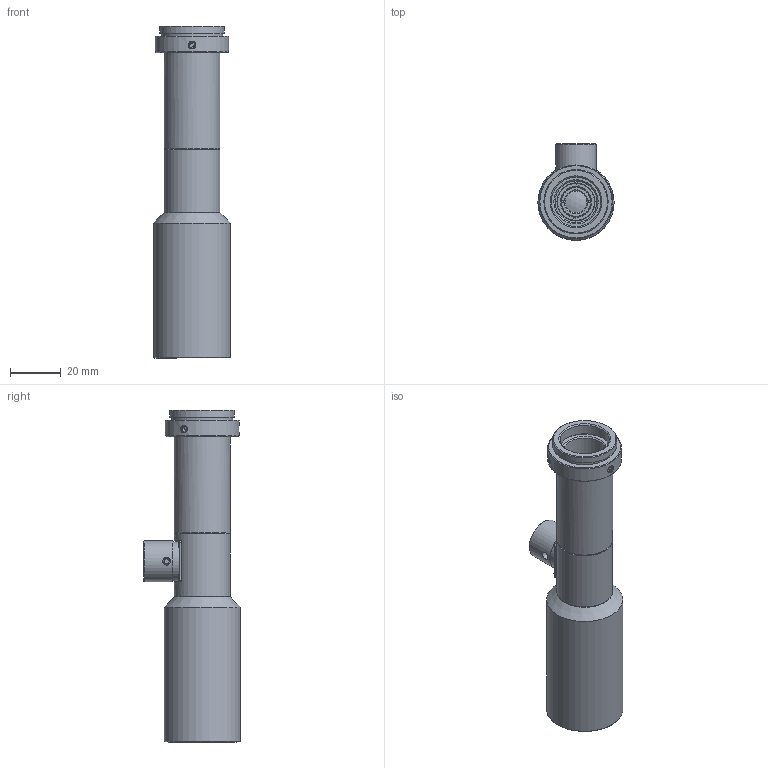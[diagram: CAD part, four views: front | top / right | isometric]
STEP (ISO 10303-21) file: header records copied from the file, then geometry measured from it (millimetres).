
FILE_DESCRIPTION(('STEP AP214'),'1');
FILE_NAME('RTK-08F-M65.stp','2026-07-31T06:01:05',(' '),(' '),'Spatial InterOp 3D',' ',' ');
FILE_SCHEMA(('AUTOMOTIVE_DESIGN { 1 0 10303 214 1 1 1 1 }'));
Length unit declared in the file: metre
Products named in the file (2): RTK-08F-M65; Component1
Assembly tree (1 placements, depth 2):
  RTK-08F-M65
    Component1
Bounding box: 30 x 38 x 130.62 mm (x, y, z)
Volume: 35131.2 mm3; surface area: 25556.7 mm2
Topology: 1 solids, 17 shells, 398 faces, 926 edges, 600 vertices
Faces by surface type: plane 206, cylinder 91, cone 82, sphere 8, torus 8, bspline 3
Full cylindrical faces by diameter (mm): 1.7 x8, 1.8 x4, 2.5 x6, 3 x3, 6.5 x1, 7 x1, 8 x2, 8.5 x1, 8.7 x1, 9 x1, 9.4 x1, 9.5 x1, 10 x2, 10.2 x1, 12.2 x2, 12.5 x1, 13.2 x1, 14 x3, 14.2 x2, 14.5 x1, 15 x1, 15.5 x1, 16 x1, 16.4 x1, 17.2 x2, 17.4 x1, 18.2 x2, 19 x4, 19.4 x1, 22 x4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
Entity records: 13895 total; most frequent: CARTESIAN_POINT 2390, DIRECTION 1808, ORIENTED_EDGE 1410, AXIS2_PLACEMENT_3D 772, EDGE_CURVE 705, EDGE_LOOP 616, VERTEX_POINT 532, FACE_OUTER_BOUND 482
